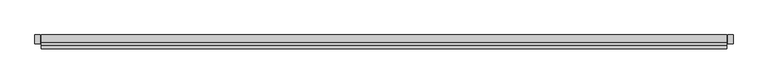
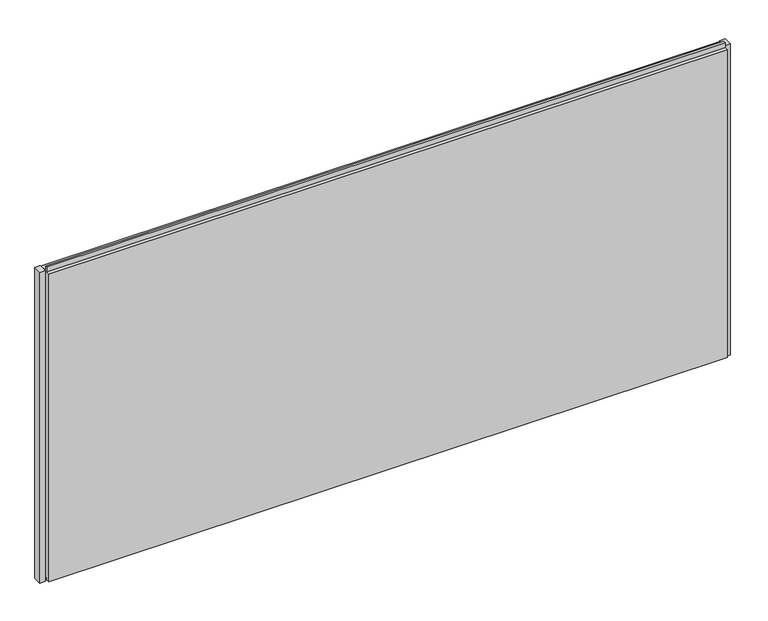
"""IFC4 building model written with IfcOpenShell, lengths in millimetres: plate geometry, Trimo_Qbiss Screen_Normal Panel-HORIZONTAL : HR - FB-F."""

from ifc_helpers import new_model, si_unit, frame, origin, place, context, project, spatial, polyline, outline, extrude, source, transform, mapped, element, save


def plate_62c4d9ae(model_context):
    return source(origin(), model_context, "Body", "SweptSolid", [
        extrude(outline(polyline([(-1240.5, 67.8978162), (-1259.5, 67.8978162), (-1259.5, 100.0), (-1240.5, 100.0), (-1240.5, 67.8978162)])), frame((0.0, 0.0, -1.0), z_axis=(0.0, 0.0, 1.0), x_axis=(1.0, 0.0, 0.0)), (0.0, 0.0, 1.0), 1200.0),
        extrude(outline(polyline([(1259.5, 67.8978162), (1240.5, 67.8978162), (1240.5, 100.0), (1259.5, 100.0), (1259.5, 67.8978162)])), frame((0.0, 0.0, -1.0), z_axis=(0.0, 0.0, 1.0), x_axis=(1.0, 0.0, 0.0)), (0.0, 0.0, 1.0), 1200.0),
        extrude(outline(polyline([(71.0, 1196.0), (100.0, 1196.0), (100.0, 0.0), (72.0, 0.0), (72.0, 15.5), (62.0, 15.5), (62.0, 7.0), (50.0, 7.0), (50.0, 1196.0), (63.0, 1196.0), (63.0, 1214.5), (71.0, 1214.5), (71.0, 1196.0)])), frame((-1237.5, 0.0, 0.0), z_axis=(1.0, 0.0, 0.0), x_axis=(0.0, 1.0, 0.0)), (0.0, 0.0, 1.0), 2475.0),
    ])


if __name__ == "__main__":
    model = new_model("IFC4")
    model_context = context("Model", 3, world=origin())
    ifc_project = project(units=[si_unit("LENGTHUNIT", "METRE", prefix="MILLI")], contexts=[model_context])
    site = spatial("IfcSite", under=ifc_project)
    building = spatial("IfcBuilding", under=site)
    placement = place(None, origin())
    plate_shape = plate_62c4d9ae(model_context)
    element("IfcPlate", 1, ObjectType="Trimo_Qbiss Screen_Normal Panel-HORIZONTAL : HR - FB-F", at=placement, inside=building, context=model_context, shape_type="MappedRepresentation", body=[
        mapped(plate_shape, transform((0.0, 0.0, 0.0), x_axis=(1.0, 0.0, 0.0), y_axis=(0.0, 1.0, 0.0), z_axis=(0.0, 0.0, 1.0))),
    ])
    save(model, "model.ifc")
